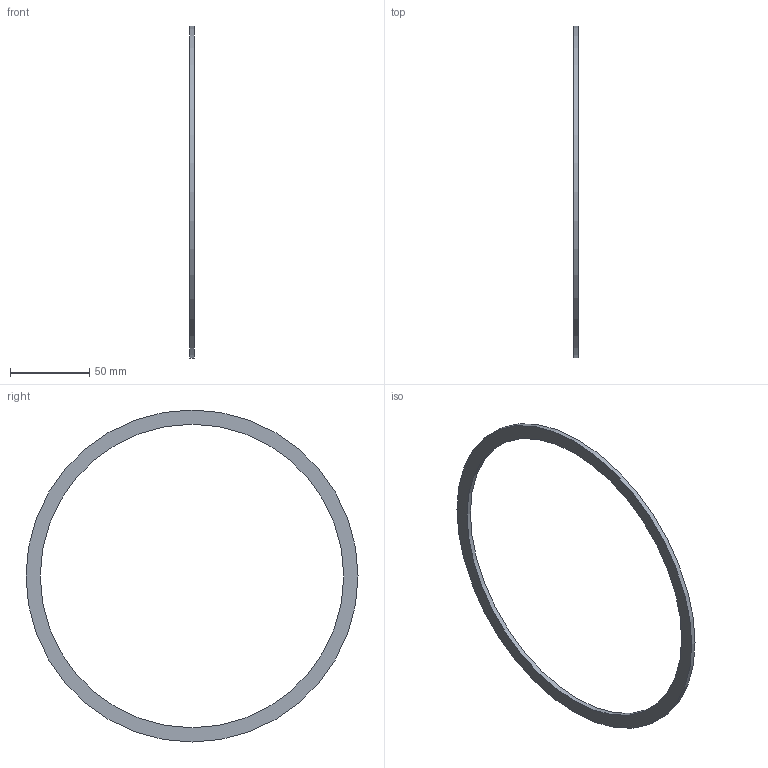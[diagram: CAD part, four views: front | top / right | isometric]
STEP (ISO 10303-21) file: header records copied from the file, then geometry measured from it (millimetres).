
FILE_DESCRIPTION(('Open CASCADE Model'),'2;1');
FILE_NAME('Open CASCADE Shape Model','2026-10-16T18:03:45',('Author'),( 'Open CASCADE'),'Open CASCADE STEP processor 7.8','Open CASCADE 7.8' ,'Unknown');
FILE_SCHEMA(('AUTOMOTIVE_DESIGN { 1 0 10303 214 1 1 1 1 }'));
Length unit declared in the file: millimetre
Products named in the file (1): Open CASCADE STEP translator 7.8 35
Bounding box: 3 x 210 x 210 mm (x, y, z)
Volume: 17049.4 mm3; surface area: 15155 mm2
Topology: 1 solids, 1 shells, 4 faces, 6 edges, 4 vertices
Faces by surface type: cylinder 2, plane 2
Full cylindrical faces by diameter (mm): 192 x1, 210 x1
Entity records: 186 total; most frequent: DIRECTION 32, CARTESIAN_POINT 27, ORIENTED_EDGE 12, PCURVE 12, DEFINITIONAL_REPRESENTATION 12, LINE 10, VECTOR 10, AXIS2_PLACEMENT_3D 9
